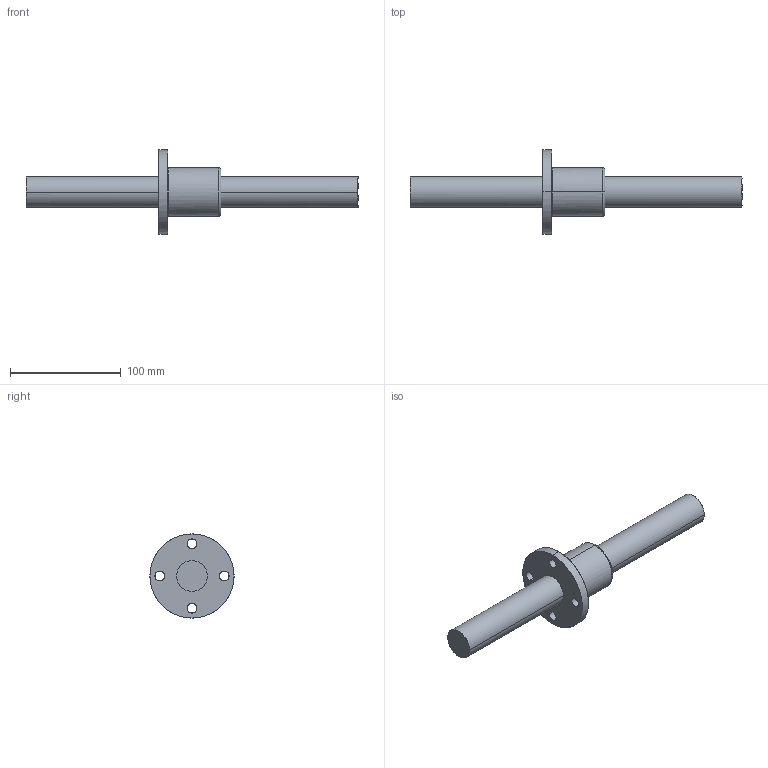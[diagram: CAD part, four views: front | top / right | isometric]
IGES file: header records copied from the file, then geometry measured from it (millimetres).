
Global section: file name: No Iges File Name specified; native system: AutoDesk Inventor R10; preprocessor: AutoDesk Inventor Iges Exporter R10; author: No Author specified; organization: No Organization specified; date: 20101224.144727; units: millimetre
Bounding box: 300 x 76 x 76 mm (x, y, z)
Surface area: 49179.3 mm2 (no closed solid volume)
Topology: 0 solids, 0 shells, 25 faces, 186 edges, 186 vertices
Faces by surface type: bspline 25
